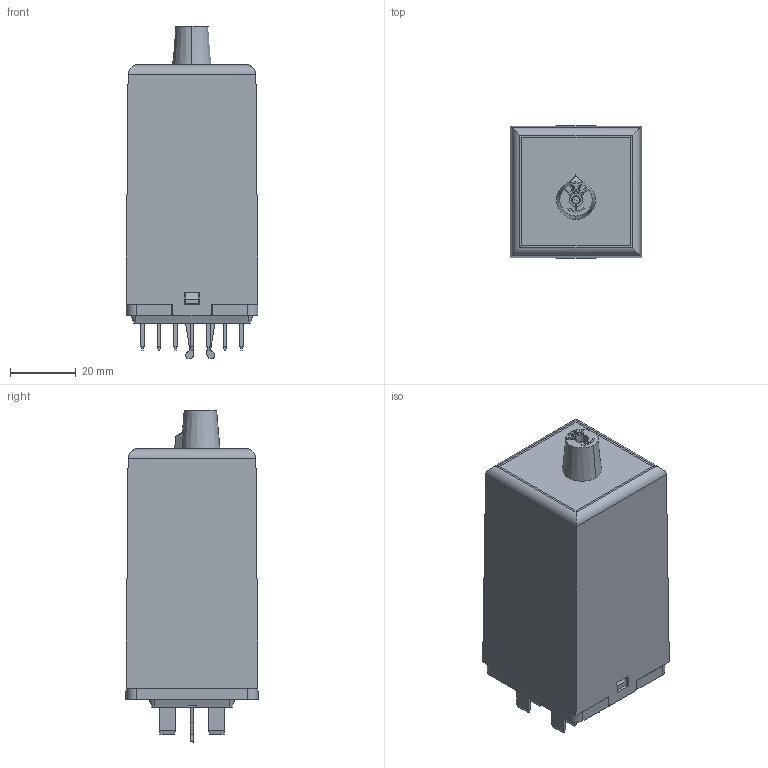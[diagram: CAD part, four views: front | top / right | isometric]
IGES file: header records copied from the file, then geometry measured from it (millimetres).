
Global section: file name: No Iges File Name specified; native system: Autodesk Inventor 2011; preprocessor: AutoDesk Inventor Iges Exporter R2011; author: oey; date: 20110303.143738; units: millimetre
Bounding box: 40 x 40.06 x 100.65 mm (x, y, z)
Volume: 30005.3 mm3; surface area: 36464.5 mm2
Topology: 1 solids, 1 shells, 1584 faces, 4503 edges, 2870 vertices
Faces by surface type: plane 817, bspline 411, cylinder 163, revolution 156, sphere 28, cone 7, torus 2
